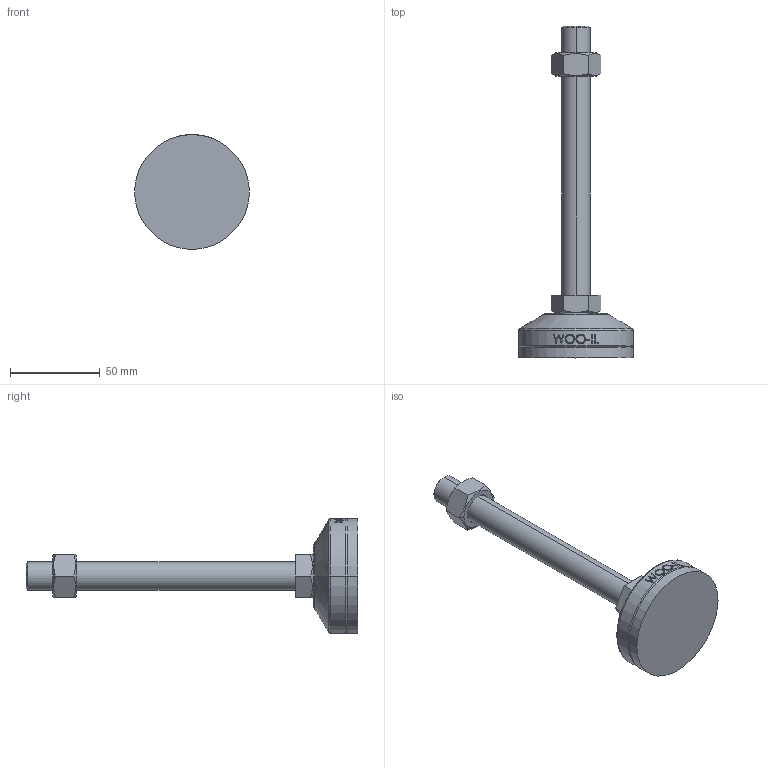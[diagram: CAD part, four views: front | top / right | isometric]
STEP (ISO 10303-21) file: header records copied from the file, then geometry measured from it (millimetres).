
FILE_DESCRIPTION (( 'STEP AP214' ), '1' );
FILE_NAME ('MFR64-M16-150.step', '2021-01-13T05:36:43', ( '' ), ( '' ), 'SwSTEP 2.0', 'SolidWorks 2019', '' );
FILE_SCHEMA (( 'AUTOMOTIVE_DESIGN' ));
Length unit declared in the file: millimetre
Products named in the file (2): MFR64-M16-150
Bounding box: 64 x 185 x 64 mm (x, y, z)
Volume: 107637.9 mm3; surface area: 27956.7 mm2
Topology: 4 solids, 4 shells, 103 faces, 235 edges, 150 vertices
Faces by surface type: plane 49, cylinder 18, bspline 16, cone 14, torus 6
Entity records: 4393 total; most frequent: CARTESIAN_POINT 2120, ORIENTED_EDGE 470, DIRECTION 417, EDGE_CURVE 235, AXIS2_PLACEMENT_3D 159, VERTEX_POINT 150, EDGE_LOOP 115, ADVANCED_FACE 103
